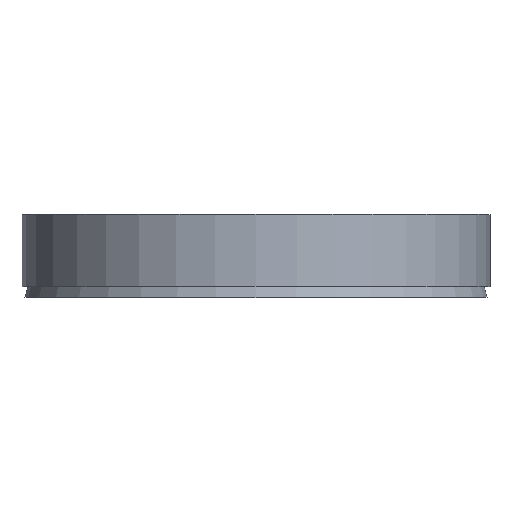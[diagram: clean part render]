
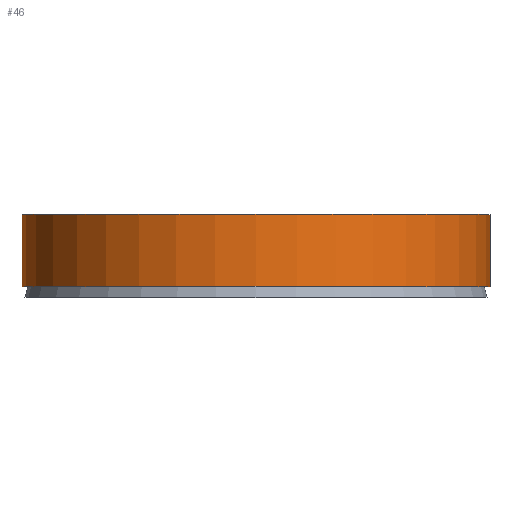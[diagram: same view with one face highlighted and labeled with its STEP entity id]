
A CAD part, top view. The second image highlights one B-rep face of the part: STEP entity #46.
In plain terms, the highlighted cylindrical face has radius 39.5 mm (diameter 79 mm), a full revolution.
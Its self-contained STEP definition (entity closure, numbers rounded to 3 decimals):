
#46 = ADVANCED_FACE( '', ( #93, #94 ), #95, .T. );
#93 = FACE_OUTER_BOUND( '', #132, .T. );
#94 = FACE_OUTER_BOUND( '', #133, .T. );
#95 = CYLINDRICAL_SURFACE( '', #134, 39.5 );
#132 = EDGE_LOOP( '', ( #179 ) );
#133 = EDGE_LOOP( '', ( #180 ) );
#134 = AXIS2_PLACEMENT_3D( '', #181, #182, #183 );
#179 = ORIENTED_EDGE( '', *, *, #189, .F. );
#180 = ORIENTED_EDGE( '', *, *, #198, .T. );
#181 = CARTESIAN_POINT( '', ( 0., -60., 0. ) );
#182 = DIRECTION( '', ( 0., 1., 0. ) );
#183 = DIRECTION( '', ( 0., 0., -1. ) );
#189 = EDGE_CURVE( '', #208, #208, #209, .T. );
#198 = EDGE_CURVE( '', #221, #221, #222, .T. );
#208 = VERTEX_POINT( '', #232 );
#209 = CIRCLE( '', #233, 39.5 );
#221 = VERTEX_POINT( '', #245 );
#222 = CIRCLE( '', #246, 39.5 );
#232 = CARTESIAN_POINT( '', ( 0., 1.8, -39.5 ) );
#233 = AXIS2_PLACEMENT_3D( '', #257, #258, #259 );
#245 = CARTESIAN_POINT( '', ( 0., 14., -39.5 ) );
#246 = AXIS2_PLACEMENT_3D( '', #269, #270, #271 );
#257 = CARTESIAN_POINT( '', ( 0., 1.8, 0. ) );
#258 = DIRECTION( '', ( 0., -1., 0. ) );
#259 = DIRECTION( '', ( 0., 0., -1. ) );
#269 = CARTESIAN_POINT( '', ( 0., 14., 0. ) );
#270 = DIRECTION( '', ( 0., -1., 0. ) );
#271 = DIRECTION( '', ( 0., 0., -1. ) );
